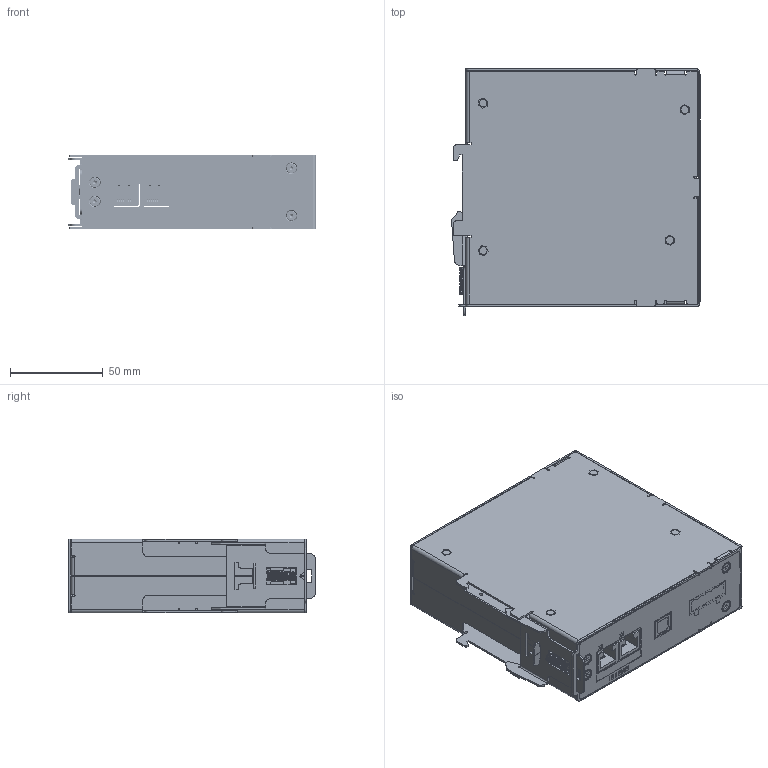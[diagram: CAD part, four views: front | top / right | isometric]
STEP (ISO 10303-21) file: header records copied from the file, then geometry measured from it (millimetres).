
FILE_DESCRIPTION (( 'STEP AP214' ), '1' );
FILE_NAME ('991-24578-00 Ethernet IP Dumb Solid.STEP', '2023-02-15T22:42:48', ( '' ), ( '' ), 'SwSTEP 2.0', 'SolidWorks 2019', '' );
FILE_SCHEMA (( 'AUTOMOTIVE_DESIGN' ));
Length unit declared in the file: millimetre
Products named in the file (1): 991-24578-00 Ethernet IP Dumb Solid
Bounding box: 134.14 x 133.35 x 39.6 mm (x, y, z)
Volume: 88904.9 mm3; surface area: 178605.2 mm2
Topology: 75 solids, 75 shells, 5362 faces, 14162 edges, 9175 vertices
Faces by surface type: plane 3361, cylinder 1507, bspline 237, cone 161, torus 80, sphere 16
Entity records: 239818 total; most frequent: CARTESIAN_POINT 48403, ORIENTED_EDGE 28260, DIRECTION 26995, EDGE_CURVE 14130, LINE 10005, VECTOR 10005, VERTEX_POINT 9175, AXIS2_PLACEMENT_3D 8495
